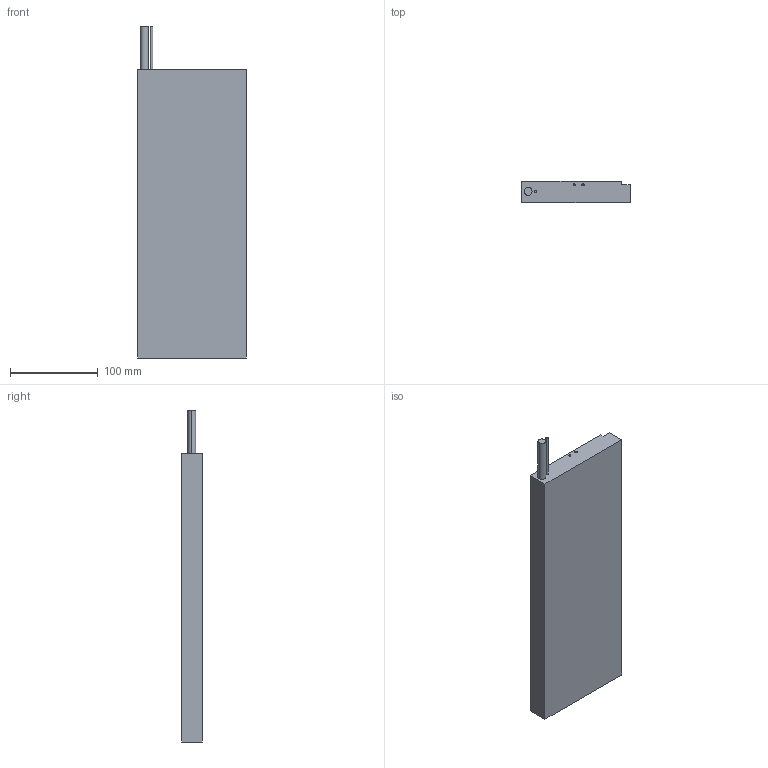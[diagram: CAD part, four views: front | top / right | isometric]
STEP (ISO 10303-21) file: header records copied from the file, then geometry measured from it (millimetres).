
FILE_DESCRIPTION (( 'STEP AP203' ), '1' );
FILE_NAME ('LMSAC3.STEP', '2016-05-13T02:58:54', ( '' ), ( '' ), 'SwSTEP 2.0', 'SolidWorks 2015', '' );
FILE_SCHEMA (( 'CONFIG_CONTROL_DESIGN' ));
Length unit declared in the file: millimetre
Products named in the file (1): LMSAC3
Bounding box: 123.5 x 23.7 x 378 mm (x, y, z)
Volume: 948307.2 mm3; surface area: 105422.6 mm2
Topology: 1 solids, 1 shells, 132 faces, 326 edges, 169 vertices
Faces by surface type: cylinder 62, cone 58, plane 12
Entity records: 3541 total; most frequent: DIRECTION 658, CARTESIAN_POINT 570, ORIENTED_EDGE 536, EDGE_CURVE 268, AXIS2_PLACEMENT_3D 257, VERTEX_POINT 169, EDGE_LOOP 163, VECTOR 144
